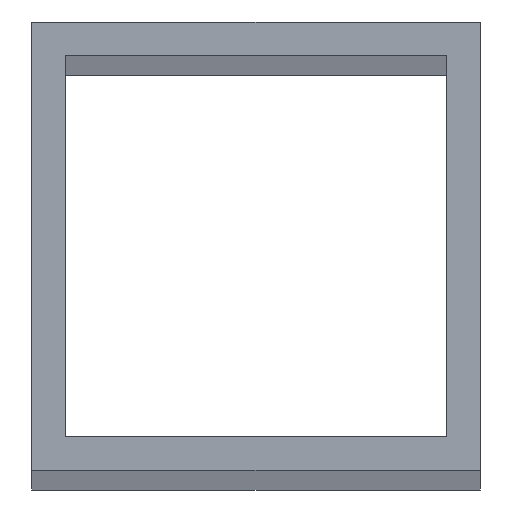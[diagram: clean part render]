
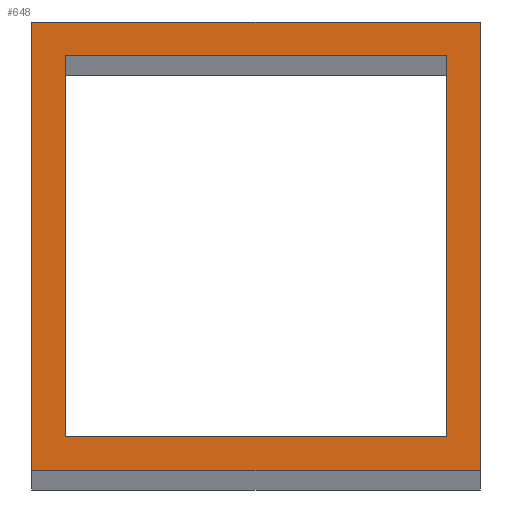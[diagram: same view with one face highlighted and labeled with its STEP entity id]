
A CAD part, top view. The second image highlights one B-rep face of the part: STEP entity #648.
In plain terms, the highlighted planar face has unit normal (0, 0, 1).
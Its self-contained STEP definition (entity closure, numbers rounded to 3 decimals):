
#24 = VERTEX_POINT('',#25);
#25 = CARTESIAN_POINT('',(-20.,-20.,1005.));
#32 = PLANE('',#33);
#33 = AXIS2_PLACEMENT_3D('',#34,#35,#36);
#34 = CARTESIAN_POINT('',(-20.,-20.,0.));
#35 = DIRECTION('',(0.,1.,0.));
#36 = DIRECTION('',(1.,0.,0.));
#44 = PLANE('',#45);
#45 = AXIS2_PLACEMENT_3D('',#46,#47,#48);
#46 = CARTESIAN_POINT('',(-20.,20.,0.));
#47 = DIRECTION('',(1.,0.,-0.));
#48 = DIRECTION('',(0.,-1.,0.));
#56 = EDGE_CURVE('',#24,#57,#59,.T.);
#57 = VERTEX_POINT('',#58);
#58 = CARTESIAN_POINT('',(20.,-20.,1005.));
#59 = SURFACE_CURVE('',#60,(#64,#71),.PCURVE_S1.);
#60 = LINE('',#61,#62);
#61 = CARTESIAN_POINT('',(-20.,-20.,1005.));
#62 = VECTOR('',#63,1.);
#63 = DIRECTION('',(1.,0.,0.));
#64 = PCURVE('',#32,#65);
#65 = DEFINITIONAL_REPRESENTATION('',(#66),#70);
#66 = LINE('',#67,#68);
#67 = CARTESIAN_POINT('',(0.,-1005.));
#68 = VECTOR('',#69,1.);
#69 = DIRECTION('',(1.,0.));
#70 = ( GEOMETRIC_REPRESENTATION_CONTEXT(2) 
PARAMETRIC_REPRESENTATION_CONTEXT() REPRESENTATION_CONTEXT('2D SPACE',''
  ) );
#71 = PCURVE('',#72,#77);
#72 = PLANE('',#73);
#73 = AXIS2_PLACEMENT_3D('',#74,#75,#76);
#74 = CARTESIAN_POINT('',(0.,0.,1005.));
#75 = DIRECTION('',(0.,0.,1.));
#76 = DIRECTION('',(1.,0.,-0.));
#77 = DEFINITIONAL_REPRESENTATION('',(#78),#82);
#78 = LINE('',#79,#80);
#79 = CARTESIAN_POINT('',(-20.,-20.));
#80 = VECTOR('',#81,1.);
#81 = DIRECTION('',(1.,0.));
#82 = ( GEOMETRIC_REPRESENTATION_CONTEXT(2) 
PARAMETRIC_REPRESENTATION_CONTEXT() REPRESENTATION_CONTEXT('2D SPACE',''
  ) );
#100 = PLANE('',#101);
#101 = AXIS2_PLACEMENT_3D('',#102,#103,#104);
#102 = CARTESIAN_POINT('',(20.,-20.,0.));
#103 = DIRECTION('',(-1.,0.,0.));
#104 = DIRECTION('',(0.,1.,0.));
#142 = EDGE_CURVE('',#57,#143,#145,.T.);
#143 = VERTEX_POINT('',#144);
#144 = CARTESIAN_POINT('',(20.,20.,1005.));
#145 = SURFACE_CURVE('',#146,(#150,#157),.PCURVE_S1.);
#146 = LINE('',#147,#148);
#147 = CARTESIAN_POINT('',(20.,-20.,1005.));
#148 = VECTOR('',#149,1.);
#149 = DIRECTION('',(0.,1.,0.));
#150 = PCURVE('',#100,#151);
#151 = DEFINITIONAL_REPRESENTATION('',(#152),#156);
#152 = LINE('',#153,#154);
#153 = CARTESIAN_POINT('',(0.,-1005.));
#154 = VECTOR('',#155,1.);
#155 = DIRECTION('',(1.,0.));
#156 = ( GEOMETRIC_REPRESENTATION_CONTEXT(2) 
PARAMETRIC_REPRESENTATION_CONTEXT() REPRESENTATION_CONTEXT('2D SPACE',''
  ) );
#157 = PCURVE('',#72,#158);
#158 = DEFINITIONAL_REPRESENTATION('',(#159),#163);
#159 = LINE('',#160,#161);
#160 = CARTESIAN_POINT('',(20.,-20.));
#161 = VECTOR('',#162,1.);
#162 = DIRECTION('',(0.,1.));
#163 = ( GEOMETRIC_REPRESENTATION_CONTEXT(2) 
PARAMETRIC_REPRESENTATION_CONTEXT() REPRESENTATION_CONTEXT('2D SPACE',''
  ) );
#181 = PLANE('',#182);
#182 = AXIS2_PLACEMENT_3D('',#183,#184,#185);
#183 = CARTESIAN_POINT('',(20.,20.,0.));
#184 = DIRECTION('',(0.,-1.,0.));
#185 = DIRECTION('',(-1.,0.,0.));
#218 = EDGE_CURVE('',#143,#219,#221,.T.);
#219 = VERTEX_POINT('',#220);
#220 = CARTESIAN_POINT('',(-20.,20.,1005.));
#221 = SURFACE_CURVE('',#222,(#226,#233),.PCURVE_S1.);
#222 = LINE('',#223,#224);
#223 = CARTESIAN_POINT('',(20.,20.,1005.));
#224 = VECTOR('',#225,1.);
#225 = DIRECTION('',(-1.,0.,0.));
#226 = PCURVE('',#181,#227);
#227 = DEFINITIONAL_REPRESENTATION('',(#228),#232);
#228 = LINE('',#229,#230);
#229 = CARTESIAN_POINT('',(0.,-1005.));
#230 = VECTOR('',#231,1.);
#231 = DIRECTION('',(1.,0.));
#232 = ( GEOMETRIC_REPRESENTATION_CONTEXT(2) 
PARAMETRIC_REPRESENTATION_CONTEXT() REPRESENTATION_CONTEXT('2D SPACE',''
  ) );
#233 = PCURVE('',#72,#234);
#234 = DEFINITIONAL_REPRESENTATION('',(#235),#239);
#235 = LINE('',#236,#237);
#236 = CARTESIAN_POINT('',(20.,20.));
#237 = VECTOR('',#238,1.);
#238 = DIRECTION('',(-1.,0.));
#239 = ( GEOMETRIC_REPRESENTATION_CONTEXT(2) 
PARAMETRIC_REPRESENTATION_CONTEXT() REPRESENTATION_CONTEXT('2D SPACE',''
  ) );
#289 = EDGE_CURVE('',#219,#24,#290,.T.);
#290 = SURFACE_CURVE('',#291,(#295,#302),.PCURVE_S1.);
#291 = LINE('',#292,#293);
#292 = CARTESIAN_POINT('',(-20.,20.,1005.));
#293 = VECTOR('',#294,1.);
#294 = DIRECTION('',(0.,-1.,0.));
#295 = PCURVE('',#44,#296);
#296 = DEFINITIONAL_REPRESENTATION('',(#297),#301);
#297 = LINE('',#298,#299);
#298 = CARTESIAN_POINT('',(0.,-1005.));
#299 = VECTOR('',#300,1.);
#300 = DIRECTION('',(1.,0.));
#301 = ( GEOMETRIC_REPRESENTATION_CONTEXT(2) 
PARAMETRIC_REPRESENTATION_CONTEXT() REPRESENTATION_CONTEXT('2D SPACE',''
  ) );
#302 = PCURVE('',#72,#303);
#303 = DEFINITIONAL_REPRESENTATION('',(#304),#308);
#304 = LINE('',#305,#306);
#305 = CARTESIAN_POINT('',(-20.,20.));
#306 = VECTOR('',#307,1.);
#307 = DIRECTION('',(0.,-1.));
#308 = ( GEOMETRIC_REPRESENTATION_CONTEXT(2) 
PARAMETRIC_REPRESENTATION_CONTEXT() REPRESENTATION_CONTEXT('2D SPACE',''
  ) );
#338 = VERTEX_POINT('',#339);
#339 = CARTESIAN_POINT('',(-17.,-17.,1005.));
#346 = PLANE('',#347);
#347 = AXIS2_PLACEMENT_3D('',#348,#349,#350);
#348 = CARTESIAN_POINT('',(-17.,-17.,0.));
#349 = DIRECTION('',(0.,1.,0.));
#350 = DIRECTION('',(1.,0.,0.));
#358 = PLANE('',#359);
#359 = AXIS2_PLACEMENT_3D('',#360,#361,#362);
#360 = CARTESIAN_POINT('',(-17.,17.,0.));
#361 = DIRECTION('',(1.,0.,-0.));
#362 = DIRECTION('',(0.,-1.,0.));
#370 = EDGE_CURVE('',#338,#371,#373,.T.);
#371 = VERTEX_POINT('',#372);
#372 = CARTESIAN_POINT('',(17.,-17.,1005.));
#373 = SURFACE_CURVE('',#374,(#378,#385),.PCURVE_S1.);
#374 = LINE('',#375,#376);
#375 = CARTESIAN_POINT('',(-17.,-17.,1005.));
#376 = VECTOR('',#377,1.);
#377 = DIRECTION('',(1.,0.,0.));
#378 = PCURVE('',#346,#379);
#379 = DEFINITIONAL_REPRESENTATION('',(#380),#384);
#380 = LINE('',#381,#382);
#381 = CARTESIAN_POINT('',(0.,-1005.));
#382 = VECTOR('',#383,1.);
#383 = DIRECTION('',(1.,0.));
#384 = ( GEOMETRIC_REPRESENTATION_CONTEXT(2) 
PARAMETRIC_REPRESENTATION_CONTEXT() REPRESENTATION_CONTEXT('2D SPACE',''
  ) );
#385 = PCURVE('',#72,#386);
#386 = DEFINITIONAL_REPRESENTATION('',(#387),#391);
#387 = LINE('',#388,#389);
#388 = CARTESIAN_POINT('',(-17.,-17.));
#389 = VECTOR('',#390,1.);
#390 = DIRECTION('',(1.,0.));
#391 = ( GEOMETRIC_REPRESENTATION_CONTEXT(2) 
PARAMETRIC_REPRESENTATION_CONTEXT() REPRESENTATION_CONTEXT('2D SPACE',''
  ) );
#409 = PLANE('',#410);
#410 = AXIS2_PLACEMENT_3D('',#411,#412,#413);
#411 = CARTESIAN_POINT('',(17.,-17.,0.));
#412 = DIRECTION('',(-1.,0.,0.));
#413 = DIRECTION('',(0.,1.,0.));
#446 = EDGE_CURVE('',#371,#447,#449,.T.);
#447 = VERTEX_POINT('',#448);
#448 = CARTESIAN_POINT('',(17.,17.,1005.));
#449 = SURFACE_CURVE('',#450,(#454,#461),.PCURVE_S1.);
#450 = LINE('',#451,#452);
#451 = CARTESIAN_POINT('',(17.,-17.,1005.));
#452 = VECTOR('',#453,1.);
#453 = DIRECTION('',(0.,1.,0.));
#454 = PCURVE('',#409,#455);
#455 = DEFINITIONAL_REPRESENTATION('',(#456),#460);
#456 = LINE('',#457,#458);
#457 = CARTESIAN_POINT('',(0.,-1005.));
#458 = VECTOR('',#459,1.);
#459 = DIRECTION('',(1.,0.));
#460 = ( GEOMETRIC_REPRESENTATION_CONTEXT(2) 
PARAMETRIC_REPRESENTATION_CONTEXT() REPRESENTATION_CONTEXT('2D SPACE',''
  ) );
#461 = PCURVE('',#72,#462);
#462 = DEFINITIONAL_REPRESENTATION('',(#463),#467);
#463 = LINE('',#464,#465);
#464 = CARTESIAN_POINT('',(17.,-17.));
#465 = VECTOR('',#466,1.);
#466 = DIRECTION('',(0.,1.));
#467 = ( GEOMETRIC_REPRESENTATION_CONTEXT(2) 
PARAMETRIC_REPRESENTATION_CONTEXT() REPRESENTATION_CONTEXT('2D SPACE',''
  ) );
#485 = PLANE('',#486);
#486 = AXIS2_PLACEMENT_3D('',#487,#488,#489);
#487 = CARTESIAN_POINT('',(17.,17.,0.));
#488 = DIRECTION('',(0.,-1.,0.));
#489 = DIRECTION('',(-1.,0.,0.));
#522 = EDGE_CURVE('',#447,#523,#525,.T.);
#523 = VERTEX_POINT('',#524);
#524 = CARTESIAN_POINT('',(-17.,17.,1005.));
#525 = SURFACE_CURVE('',#526,(#530,#537),.PCURVE_S1.);
#526 = LINE('',#527,#528);
#527 = CARTESIAN_POINT('',(17.,17.,1005.));
#528 = VECTOR('',#529,1.);
#529 = DIRECTION('',(-1.,0.,0.));
#530 = PCURVE('',#485,#531);
#531 = DEFINITIONAL_REPRESENTATION('',(#532),#536);
#532 = LINE('',#533,#534);
#533 = CARTESIAN_POINT('',(0.,-1005.));
#534 = VECTOR('',#535,1.);
#535 = DIRECTION('',(1.,0.));
#536 = ( GEOMETRIC_REPRESENTATION_CONTEXT(2) 
PARAMETRIC_REPRESENTATION_CONTEXT() REPRESENTATION_CONTEXT('2D SPACE',''
  ) );
#537 = PCURVE('',#72,#538);
#538 = DEFINITIONAL_REPRESENTATION('',(#539),#543);
#539 = LINE('',#540,#541);
#540 = CARTESIAN_POINT('',(17.,17.));
#541 = VECTOR('',#542,1.);
#542 = DIRECTION('',(-1.,0.));
#543 = ( GEOMETRIC_REPRESENTATION_CONTEXT(2) 
PARAMETRIC_REPRESENTATION_CONTEXT() REPRESENTATION_CONTEXT('2D SPACE',''
  ) );
#593 = EDGE_CURVE('',#523,#338,#594,.T.);
#594 = SURFACE_CURVE('',#595,(#599,#606),.PCURVE_S1.);
#595 = LINE('',#596,#597);
#596 = CARTESIAN_POINT('',(-17.,17.,1005.));
#597 = VECTOR('',#598,1.);
#598 = DIRECTION('',(0.,-1.,0.));
#599 = PCURVE('',#358,#600);
#600 = DEFINITIONAL_REPRESENTATION('',(#601),#605);
#601 = LINE('',#602,#603);
#602 = CARTESIAN_POINT('',(0.,-1005.));
#603 = VECTOR('',#604,1.);
#604 = DIRECTION('',(1.,0.));
#605 = ( GEOMETRIC_REPRESENTATION_CONTEXT(2) 
PARAMETRIC_REPRESENTATION_CONTEXT() REPRESENTATION_CONTEXT('2D SPACE',''
  ) );
#606 = PCURVE('',#72,#607);
#607 = DEFINITIONAL_REPRESENTATION('',(#608),#612);
#608 = LINE('',#609,#610);
#609 = CARTESIAN_POINT('',(-17.,17.));
#610 = VECTOR('',#611,1.);
#611 = DIRECTION('',(0.,-1.));
#612 = ( GEOMETRIC_REPRESENTATION_CONTEXT(2) 
PARAMETRIC_REPRESENTATION_CONTEXT() REPRESENTATION_CONTEXT('2D SPACE',''
  ) );
#648 = ADVANCED_FACE('',(#649,#655),#72,.T.);
#649 = FACE_BOUND('',#650,.T.);
#650 = EDGE_LOOP('',(#651,#652,#653,#654));
#651 = ORIENTED_EDGE('',*,*,#56,.T.);
#652 = ORIENTED_EDGE('',*,*,#142,.T.);
#653 = ORIENTED_EDGE('',*,*,#218,.T.);
#654 = ORIENTED_EDGE('',*,*,#289,.T.);
#655 = FACE_BOUND('',#656,.F.);
#656 = EDGE_LOOP('',(#657,#658,#659,#660));
#657 = ORIENTED_EDGE('',*,*,#370,.T.);
#658 = ORIENTED_EDGE('',*,*,#446,.T.);
#659 = ORIENTED_EDGE('',*,*,#522,.T.);
#660 = ORIENTED_EDGE('',*,*,#593,.T.);
